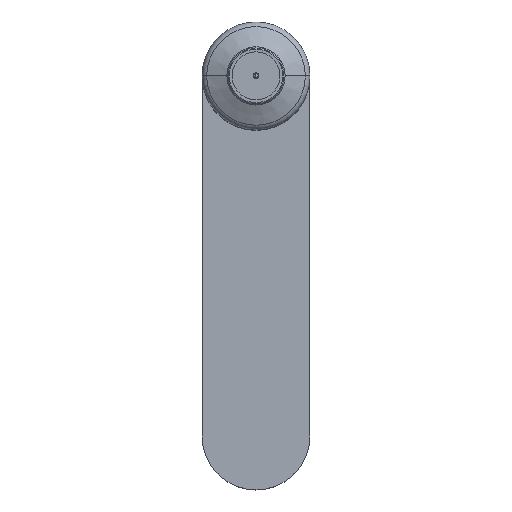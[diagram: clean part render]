
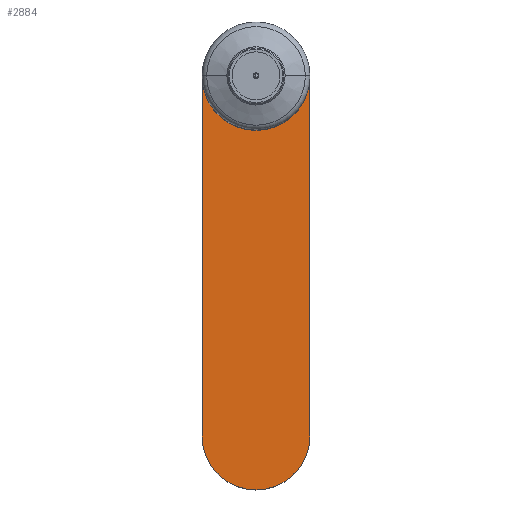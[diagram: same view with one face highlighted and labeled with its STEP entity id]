
A CAD part, top view. The second image highlights one B-rep face of the part: STEP entity #2884.
In plain terms, the highlighted planar face has unit normal (0, 0, 1).
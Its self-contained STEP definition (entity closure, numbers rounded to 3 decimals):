
#929 = CIRCLE ( 'NONE', #4649, 13.5 ) ;
#949 = DIRECTION ( 'NONE',  ( 0., -1., 0. ) ) ;
#1203 = CARTESIAN_POINT ( 'NONE',  ( -13.5, 0., 15. ) ) ;
#1209 = DIRECTION ( 'NONE',  ( 0., 0., 1. ) ) ;
#1460 = EDGE_LOOP ( 'NONE', ( #11698, #3673, #8957, #10957, #9387 ) ) ;
#1543 = CARTESIAN_POINT ( 'NONE',  ( 0., -90., 15. ) ) ;
#2121 = CARTESIAN_POINT ( 'NONE',  ( 13.5, 0., 15. ) ) ;
#2239 = DIRECTION ( 'NONE',  ( 0., -1., 0. ) ) ;
#2358 = VERTEX_POINT ( 'NONE', #3755 ) ;
#2458 = VERTEX_POINT ( 'NONE', #7651 ) ;
#2884 = ADVANCED_FACE ( 'NONE', ( #5684 ), #3459, .T. ) ;
#3276 = AXIS2_PLACEMENT_3D ( 'NONE', #3906, #8744, #11498 ) ;
#3459 = PLANE ( 'NONE',  #10772 ) ;
#3673 = ORIENTED_EDGE ( 'NONE', *, *, #4577, .T. ) ;
#3755 = CARTESIAN_POINT ( 'NONE',  ( 13.5, -90., 15. ) ) ;
#3906 = CARTESIAN_POINT ( 'NONE',  ( 0., 0., 15. ) ) ;
#3939 = CIRCLE ( 'NONE', #3276, 13.5 ) ;
#4100 = EDGE_CURVE ( 'NONE', #8418, #2458, #4789, .T. ) ;
#4206 = VECTOR ( 'NONE', #8894, 1000. ) ;
#4300 = DIRECTION ( 'NONE',  ( 0., 0., 1. ) ) ;
#4577 = EDGE_CURVE ( 'NONE', #5112, #11313, #929, .T. ) ;
#4649 = AXIS2_PLACEMENT_3D ( 'NONE', #9165, #6647, #949 ) ;
#4789 = LINE ( 'NONE', #9739, #4206 ) ;
#5067 = DIRECTION ( 'NONE',  ( 0., 1., 0. ) ) ;
#5112 = VERTEX_POINT ( 'NONE', #2121 ) ;
#5245 = DIRECTION ( 'NONE',  ( 0., -1., 0. ) ) ;
#5684 = FACE_OUTER_BOUND ( 'NONE', #1460, .T. ) ;
#5909 = LINE ( 'NONE', #11779, #8410 ) ;
#6647 = DIRECTION ( 'NONE',  ( 0., 0., -1. ) ) ;
#7172 = EDGE_CURVE ( 'NONE', #2458, #2358, #10994, .T. ) ;
#7651 = CARTESIAN_POINT ( 'NONE',  ( -13.5, -90., 15. ) ) ;
#8244 = AXIS2_PLACEMENT_3D ( 'NONE', #9851, #1209, #2239 ) ;
#8410 = VECTOR ( 'NONE', #5067, 1000. ) ;
#8418 = VERTEX_POINT ( 'NONE', #1203 ) ;
#8744 = DIRECTION ( 'NONE',  ( 0., 0., -1. ) ) ;
#8894 = DIRECTION ( 'NONE',  ( 0., -1., 0. ) ) ;
#8957 = ORIENTED_EDGE ( 'NONE', *, *, #11942, .T. ) ;
#9165 = CARTESIAN_POINT ( 'NONE',  ( 0., 0., 15. ) ) ;
#9387 = ORIENTED_EDGE ( 'NONE', *, *, #7172, .T. ) ;
#9739 = CARTESIAN_POINT ( 'NONE',  ( -13.5, 0., 15. ) ) ;
#9851 = CARTESIAN_POINT ( 'NONE',  ( 0., -90., 15. ) ) ;
#10451 = EDGE_CURVE ( 'NONE', #2358, #5112, #5909, .T. ) ;
#10772 = AXIS2_PLACEMENT_3D ( 'NONE', #1543, #4300, #5245 ) ;
#10815 = CARTESIAN_POINT ( 'NONE',  ( 0., -13.5, 15. ) ) ;
#10957 = ORIENTED_EDGE ( 'NONE', *, *, #4100, .T. ) ;
#10994 = CIRCLE ( 'NONE', #8244, 13.5 ) ;
#11313 = VERTEX_POINT ( 'NONE', #10815 ) ;
#11498 = DIRECTION ( 'NONE',  ( 0., -1., 0. ) ) ;
#11698 = ORIENTED_EDGE ( 'NONE', *, *, #10451, .T. ) ;
#11779 = CARTESIAN_POINT ( 'NONE',  ( 13.5, 0., 15. ) ) ;
#11942 = EDGE_CURVE ( 'NONE', #11313, #8418, #3939, .T. ) ;
